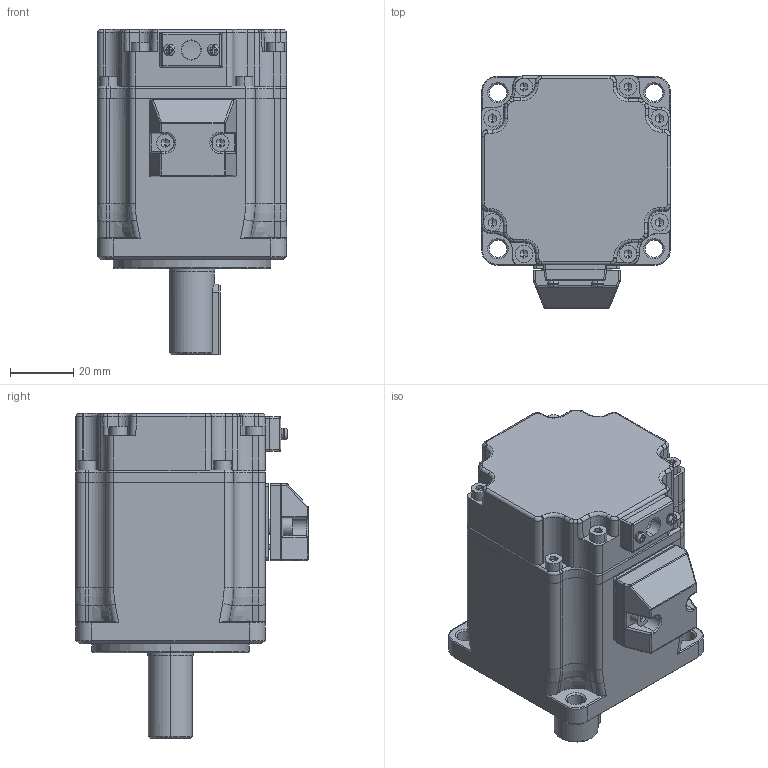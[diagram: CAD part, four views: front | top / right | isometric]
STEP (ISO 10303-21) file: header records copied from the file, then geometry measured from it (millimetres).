
FILE_DESCRIPTION (( 'STEP AP214' ), '1' );
FILE_NAME ('ACM2-06002H2F1-E23-65.STEP', '2019-08-07T10:48:30', ( '' ), ( '' ), 'SwSTEP 2.0', 'SolidWorks 2014', '' );
FILE_SCHEMA (( 'AUTOMOTIVE_DESIGN' ));
Length unit declared in the file: millimetre
Products named in the file (25): _X2_538B76D6_X0__2; _X2_952E_X0_; _X2_5BC65C0157AB_X0__1_2; ______; ACM2-06002H2F1-E23-65; _X2_5BC65C0157AB_X0__1; _X2_538B76D6_X0_; __; _X2_81EA653B87BA9489_X0_ _X2_FF1A_X0_ M2.3 x 12_2; _X2_81EA653B87BA9489_X0_ _X2_FF1A_X0_ M2.3 x 12; _X2_87BA9489_X0_ _X2_FF1A_X0_ _X2_570667F15934_X0_ - M3.0 x 8.0_2; _X2_87BA9489_X0_ _X2_FF1A_X0_ _X2_570667F15934_X0_ - M3.0 x 8.0; _X2_87BA9489_X0_ _X2_FF1A_X0_ _X2_570667F15934_X0_ - M3.0 x 16.0_4; _X2_87BA9489_X0_ _X2_FF1A_X0_ _X2_570667F15934_X0_ - M3.0 x 16.0_3; _X2_87BA9489_X0_ _X2_FF1A_X0_ _X2_570667F15934_X0_ - M3.0 x 16.0_2; _X2_87BA9489_X0_ _X2_FF1A_X0_ _X2_570667F15934_X0_ - M3.0 x 16.0; 60HE_X2_673A58F3_X0_-2; _X2_87BA9489_X0_ _X2_FF1A_X0_ _X2_570667F15934_X0_ - M3.0 x 10.0_4; _X2_540E7AEF76D6_X0__1; _X2_87BA9489_X0_ _X2_FF1A_X0_ _X2_570667F15934_X0_ - M3.0 x 10.0_3; ____1; _X2_87BA9489_X0_ _X2_FF1A_X0_ _X2_570667F15934_X0_ - M3.0 x 10.0_2; _X2_963262A47F69_X0_-TG060.003.09B-3003031-88; _X2_87BA9489_X0_ _X2_FF1A_X0_ _X2_570667F15934_X0_ - M3.0 x 10.0; _X2_6CB95C01_X0_
Assembly tree (24 placements, depth 3):
  ACM2-06002H2F1-E23-65
    _X2_952E_X0_
    _X2_6CB95C01_X0_
    __
      _X2_87BA9489_X0_ _X2_FF1A_X0_ _X2_570667F15934_X0_ - M3.0 x 10.0
      _X2_87BA9489_X0_ _X2_FF1A_X0_ _X2_570667F15934_X0_ - M3.0 x 10.0_2
      _X2_87BA9489_X0_ _X2_FF1A_X0_ _X2_570667F15934_X0_ - M3.0 x 10.0_3
      _X2_87BA9489_X0_ _X2_FF1A_X0_ _X2_570667F15934_X0_ - M3.0 x 10.0_4
      _X2_87BA9489_X0_ _X2_FF1A_X0_ _X2_570667F15934_X0_ - M3.0 x 16.0
      _X2_87BA9489_X0_ _X2_FF1A_X0_ _X2_570667F15934_X0_ - M3.0 x 16.0_2
      _X2_87BA9489_X0_ _X2_FF1A_X0_ _X2_570667F15934_X0_ - M3.0 x 16.0_3
      _X2_87BA9489_X0_ _X2_FF1A_X0_ _X2_570667F15934_X0_ - M3.0 x 16.0_4
      _X2_87BA9489_X0_ _X2_FF1A_X0_ _X2_570667F15934_X0_ - M3.0 x 8.0
      _X2_87BA9489_X0_ _X2_FF1A_X0_ _X2_570667F15934_X0_ - M3.0 x 8.0_2
      _X2_81EA653B87BA9489_X0_ _X2_FF1A_X0_ M2.3 x 12
      _X2_81EA653B87BA9489_X0_ _X2_FF1A_X0_ M2.3 x 12_2
    ______
      _X2_538B76D6_X0_
      _X2_5BC65C0157AB_X0__1
    ____1
      _X2_5BC65C0157AB_X0__1_2
      _X2_538B76D6_X0__2
      _X2_963262A47F69_X0_-TG060.003.09B-3003031-88
    _X2_540E7AEF76D6_X0__1
    60HE_X2_673A58F3_X0_-2
Bounding box: 60 x 73.65 x 103.1 mm (x, y, z)
Volume: 270742.9 mm3; surface area: 51568.7 mm2
Topology: 21 solids, 25 shells, 1367 faces, 3349 edges, 2051 vertices
Faces by surface type: plane 737, cylinder 369, bspline 165, cone 96
Entity records: 62456 total; most frequent: CARTESIAN_POINT 15063, ORIENTED_EDGE 6634, DIRECTION 6346, EDGE_CURVE 3317, LINE 2158, VECTOR 2158, AXIS2_PLACEMENT_3D 2094, VERTEX_POINT 2051
